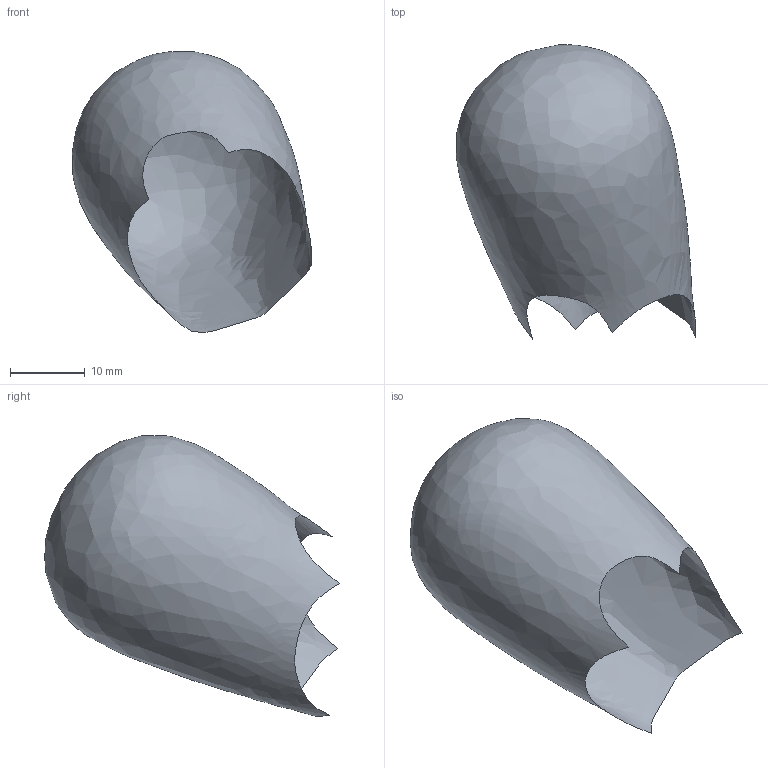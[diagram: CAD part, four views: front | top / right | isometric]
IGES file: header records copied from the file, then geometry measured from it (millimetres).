
Global section: file name: D:\RhinoResurf(v1.01)\single surface\fromrhino\hole_surf.igs; native system: Rhinoceros ( Oct 17 2007 ); preprocessor: Trout Lake IGES 012 Oct 17 2007; date: 080311.105215; units: centimetre
Bounding box: 31.94 x 39.31 x 37.46 mm (x, y, z)
Surface area: 3321.6 mm2 (no closed solid volume)
Topology: 0 solids, 0 shells, 1 faces, 4 edges, 4 vertices
Faces by surface type: bspline 1
